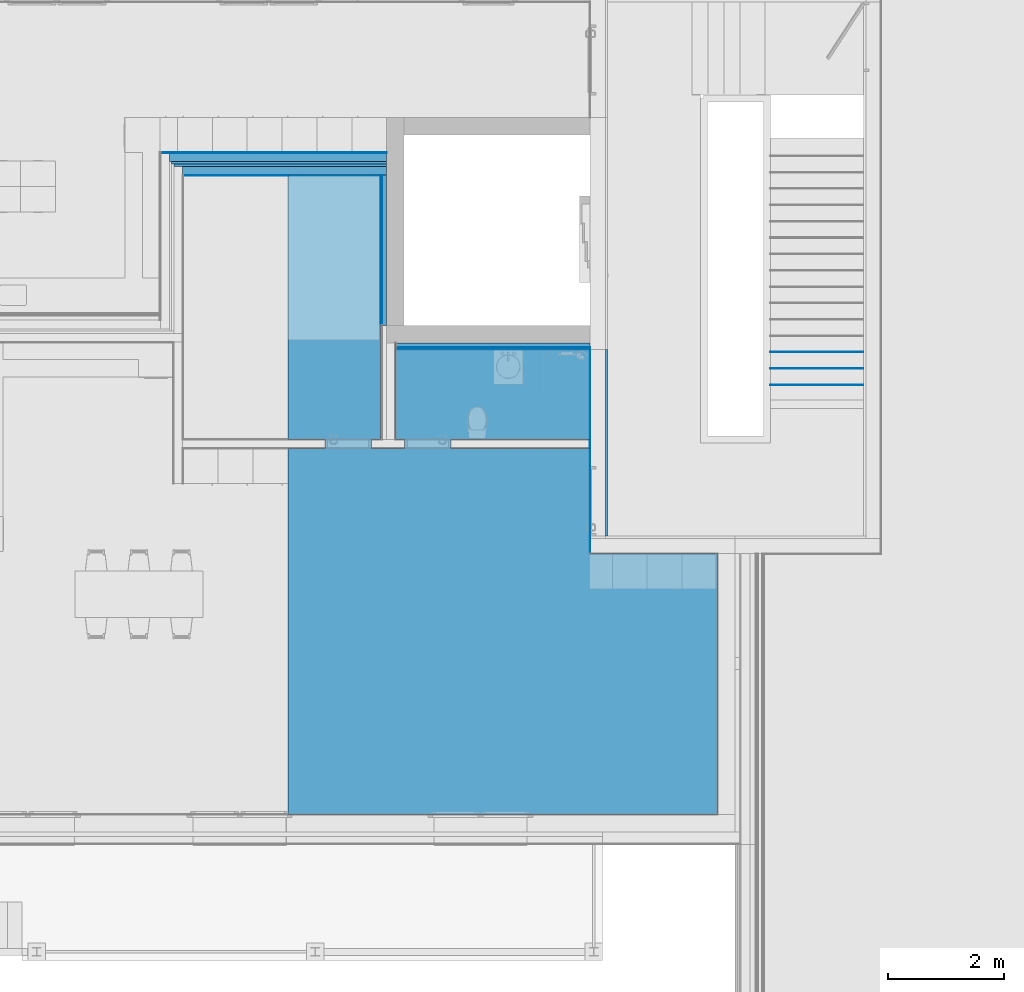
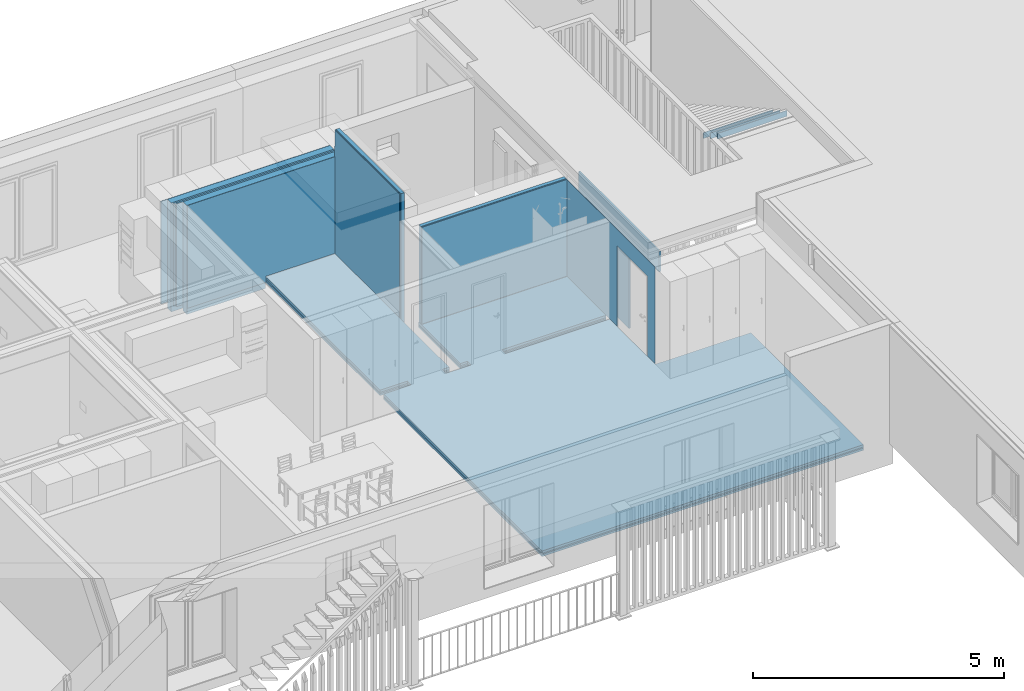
# One storey, part 12 of 34: 22 building element parts, 1 opening, 7 elements without a shape of their own.
"""IFC4 building model written with IfcOpenShell, lengths in millimetres."""

from ifc_helpers import new_model, entity, si_unit, converted_unit, derived_unit, direction, frame, origin_with_axes, place, context, subcontext, project, spatial, polygons, material, type_object, element, aggregate, save


model = new_model("IFC4")

# Units and contexts
model_context = context("Model", 3, precision=0.01, world=origin_with_axes(), true_north=direction((0.0, 1.0)))
body_context = subcontext(model_context, "Body", "Model", "MODEL_VIEW")
ifc_project = project(units=[si_unit("LENGTHUNIT", "METRE", prefix="MILLI"), si_unit("AREAUNIT", "SQUARE_METRE"), si_unit("VOLUMEUNIT", "CUBIC_METRE"), converted_unit("PLANEANGLEUNIT", "DEGREE", entity("IfcPlaneAngleMeasure", 0.0174532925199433), si_unit("PLANEANGLEUNIT", "RADIAN"), dimensions=[0, 0, 0, 0, 0, 0, 0]), converted_unit("TIMEUNIT", "Year", entity("IfcTimeMeasure", 31557600.0), si_unit("TIMEUNIT", "SECOND"), dimensions=[0, 0, 1, 0, 0, 0, 0]), si_unit("MASSUNIT", "GRAM", prefix="KILO"), si_unit("THERMODYNAMICTEMPERATUREUNIT", "DEGREE_CELSIUS"), si_unit("LUMINOUSINTENSITYUNIT", "LUMEN"), si_unit("ENERGYUNIT", "JOULE", prefix="MEGA"), derived_unit("THERMALCONDUCTANCEUNIT", [(si_unit("POWERUNIT", "WATT"), 1), (si_unit("LENGTHUNIT", "METRE"), -1), (si_unit("THERMODYNAMICTEMPERATUREUNIT", "KELVIN"), -1)]), derived_unit("SPECIFICHEATCAPACITYUNIT", [(si_unit("ENERGYUNIT", "JOULE"), 1), (si_unit("MASSUNIT", "GRAM", prefix="KILO"), -1), (si_unit("THERMODYNAMICTEMPERATUREUNIT", "KELVIN"), -1)]), derived_unit("MASSDENSITYUNIT", [(si_unit("MASSUNIT", "GRAM", prefix="KILO"), 1), (si_unit("VOLUMEUNIT", "CUBIC_METRE"), -1)])], contexts=[model_context])

# Site, building, storey
site_placement = place(None, origin_with_axes())
site = spatial("IfcSite", under=ifc_project, at=site_placement, Name="Gelände", CompositionType="ELEMENT")
building_placement = place(site_placement, origin_with_axes())
building = spatial("IfcBuilding", under=site, at=building_placement, Name="Gebäude", CompositionType="ELEMENT")
storey_placement = place(building_placement, frame((0.0, 0.0, 5799.999999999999), z_axis=(0.0, 0.0, 1.0), x_axis=(1.0, 0.0, 0.0)))
storey = spatial("IfcBuildingStorey", under=building, at=storey_placement, Name="2.OG", CompositionType="ELEMENT", Elevation=5800.0)

# Wall, opening, building element parts
wall_type_1 = type_object("IfcWallType", Name="Innenwand Typ 10 310", PredefinedType="NOTDEFINED")
wall_1_placement = place(storey_placement, frame((15728.99744477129, 31457.59728131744, 150.0000000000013), z_axis=(0.0, 0.0, 1.0), x_axis=(0.0, -1.0, 0.0)))
wall_1 = element("IfcWall", 1, at=wall_1_placement, inside=storey, type_object=wall_type_1, Name="Wand-014", PredefinedType="NOTDEFINED")
opening_placement = place(wall_1_placement, frame((2610.0, 0.0, 0.0), z_axis=(0.0, 0.0, 1.0), x_axis=(1.0, 0.0, 0.0)))
element("IfcOpeningElement", 2, at=opening_placement, cuts=wall_1, Name="Tür-011", context=body_context, identifier="Reference", shape_type="Tessellation", body=[
    polygons([(600.0000000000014, -300.0000000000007, 2100.0), (-600.0000000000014, -300.0000000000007, 2100.0), (-600.0000000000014, -310.9999999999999, 2100.0), (600.0000000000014, -310.9999999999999, 2100.0), (600.0000000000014, 1.000000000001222, 2100.0), (-600.0000000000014, 1.000000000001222, 2100.0), (-600.0000000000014, -300.0000000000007, -150.0000000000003), (-600.0000000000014, -310.9999999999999, -149.9999999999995), (600.0000000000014, -310.9999999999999, -149.9999999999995), (600.0000000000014, -300.0000000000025, -150.0000000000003), (600.0000000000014, 0.9999999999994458, -150.0000000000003), (-600.0000000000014, 1.000000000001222, -150.0000000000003)], [[[1, 2, 3, 4]], [[2, 1, 5, 6]], [[2, 7, 8, 3]], [[3, 8, 9, 4]], [[10, 1, 4, 9]], [[1, 10, 11, 5]], [[5, 11, 12, 6]], [[7, 2, 6, 12]], [[7, 10, 9, 8]], [[10, 7, 12, 11]]], closed=True),
])
ifc_material_1 = material(Name="Sichtbeton")
building_element_part_1_placement = place(wall_1_placement, origin_with_axes())
building_element_part_1 = element("IfcBuildingElementPart", 3, at=building_element_part_1_placement, material=ifc_material_1, Name="Sichtbeton", PredefinedType="NOTDEFINED", context=body_context, shape_type="Tessellation", body=[
    polygons([(2009.999999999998, 0.0, 2100.0), (2009.999999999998, 0.0, 0.0), (0.0, 0.0, 0.0), (0.0, 0.0, 2599.999999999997), (3209.999999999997, 0.0, 2599.999999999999), (3209.999999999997, 0.0, 2499.999999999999), (3210.000000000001, 0.0, 2100.0), (2009.999999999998, -39.99999999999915, 2100.0), (2009.999999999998, -40.00000000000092, 0.0), (0.0, -39.99999999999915, 0.0), (0.0, -39.99999999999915, 2599.999999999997), (3209.999999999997, -39.99999999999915, 2599.999999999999), (3210.000000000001, -39.99999999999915, 2100.0)], [[[1, 2, 3, 4, 5, 6, 7]], [[2, 1, 8, 9]], [[2, 9, 10, 3]], [[11, 4, 3, 10]], [[11, 12, 5, 4]], [[13, 7, 6, 5, 12]], [[1, 7, 13, 8]], [[8, 13, 12, 11, 10, 9]]], closed=True),
])
ifc_material_2 = material(Name="Kalkzementputz Aussen")
building_element_part_2_placement = place(wall_1_placement, origin_with_axes())
building_element_part_2 = element("IfcBuildingElementPart", 4, at=building_element_part_2_placement, material=ifc_material_2, Name="Kalkzementputz Aussen", PredefinedType="NOTDEFINED", context=body_context, shape_type="Tessellation", body=[
    polygons([(3210.000000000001, -300.0000000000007, 149.9999999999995), (3210.000000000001, -300.0000000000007, 2100.0), (2009.999999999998, -300.0000000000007, 2100.0), (2009.999999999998, -300.0000000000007, 149.9999999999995), (0.0, -300.0000921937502, 149.9999999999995), (0.0, -300.0000000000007, 2499.999948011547), (3509.999999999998, -300.0000000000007, 2499.999999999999), (3510.000081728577, -300.0000921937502, 149.9999999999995), (3210.000000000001, -310.0000000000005, 149.9999999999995), (3210.000000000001, -310.0000000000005, 2100.0), (2009.999999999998, -310.0000000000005, 2100.0), (2009.999999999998, -310.0000000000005, 149.9999999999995), (0.0, -310.0000000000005, 149.9999999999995), (0.0, -310.0000000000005, 2499.999948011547), (3210.000000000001, -310.0000000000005, 2499.999948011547), (3509.999999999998, -310.0000000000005, 2499.999999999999), (3510.00000005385, -310.0000000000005, 149.9999999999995)], [[[1, 2, 3, 4, 5, 6, 7, 8]], [[2, 1, 9, 10]], [[3, 2, 10, 11]], [[4, 3, 11, 12]], [[4, 12, 13, 5]], [[6, 5, 13, 14]], [[15, 16, 7, 6, 14]], [[8, 7, 16, 17]], [[9, 1, 8, 17]], [[10, 9, 17, 16, 15, 14, 13, 12, 11]]], closed=True),
])
aggregate(wall_1, [building_element_part_1, building_element_part_2])

# Stair, building element parts
stair_type = type_object("IfcStairType", Name="Treppentyp", PredefinedType="NOTDEFINED")
stair_placement = place(storey_placement, frame((20128.99743772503, 35092.59728131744, 650.0000000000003), z_axis=(0.0, 0.0, 1.0), x_axis=(1.0, 0.0, 0.0)))
stair = element("IfcStair", 5, at=stair_placement, inside=storey, type_object=stair_type, Name="Treppe-001", PredefinedType="NOTDEFINED")
ifc_material_3 = material(Name="Keramik")
building_element_part_3_placement = place(stair_placement, origin_with_axes())
building_element_part_3 = element("IfcBuildingElementPart", 6, at=building_element_part_3_placement, material=ifc_material_3, Name="Keramik", PredefinedType="NOTDEFINED", context=body_context, shape_type="Tessellation", body=[
    polygons([(-1600.000000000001, -3676.250000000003, 2077.333333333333), (-1600.000000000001, -3686.250000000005, 2077.333333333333), (0.0, -3686.250000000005, 2077.333333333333), (0.0, -3676.250000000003, 2077.333333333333), (-1600.000000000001, -3676.250000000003, 1936.0), (-1600.000000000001, -3686.250000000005, 1936.0), (0.0, -3686.250000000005, 1936.0), (0.0, -3676.250000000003, 1936.0)], [[[1, 2, 3, 4]], [[1, 5, 6, 2]], [[2, 6, 7, 3]], [[4, 3, 7, 8]], [[5, 1, 4, 8]], [[6, 5, 8, 7]]], closed=True),
])
building_element_part_4_placement = place(stair_placement, origin_with_axes())
building_element_part_4 = element("IfcBuildingElementPart", 7, at=building_element_part_4_placement, material=ifc_material_3, Name="Keramik", PredefinedType="NOTDEFINED", context=body_context, shape_type="Tessellation", body=[
    polygons([(-1600.000000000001, -3957.500000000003, 2238.666666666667), (-1600.000000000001, -3967.500000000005, 2238.666666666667), (0.0, -3967.500000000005, 2238.666666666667), (0.0, -3957.500000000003, 2238.666666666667), (-1600.000000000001, -3957.500000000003, 2097.333333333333), (-1600.000000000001, -3967.500000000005, 2097.333333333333), (0.0, -3967.500000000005, 2097.333333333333), (0.0, -3957.500000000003, 2097.333333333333)], [[[1, 2, 3, 4]], [[1, 5, 6, 2]], [[2, 6, 7, 3]], [[4, 3, 7, 8]], [[5, 1, 4, 8]], [[6, 5, 8, 7]]], closed=True),
])
building_element_part_5_placement = place(stair_placement, origin_with_axes())
building_element_part_5 = element("IfcBuildingElementPart", 8, at=building_element_part_5_placement, material=ifc_material_3, Name="Keramik", PredefinedType="NOTDEFINED", context=body_context, shape_type="Tessellation", body=[
    polygons([(-1600.000000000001, -4238.750000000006, 2400.0), (-1600.000000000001, -4248.750000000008, 2400.0), (0.0, -4248.750000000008, 2400.0), (0.0, -4238.750000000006, 2400.0), (-1600.000000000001, -4238.750000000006, 2258.666666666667), (-1600.000000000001, -4248.750000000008, 2258.666666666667), (0.0, -4248.750000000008, 2258.666666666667), (0.0, -4238.750000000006, 2258.666666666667)], [[[1, 2, 3, 4]], [[1, 5, 6, 2]], [[2, 6, 7, 3]], [[4, 3, 7, 8]], [[5, 1, 4, 8]], [[6, 5, 8, 7]]], closed=True),
])
aggregate(stair, [building_element_part_3, building_element_part_4, building_element_part_5])

# Wall, building element parts
wall_type_2 = type_object("IfcWallType", Name="Trennwand Typ 03 - verputzt 200", PredefinedType="NOTDEFINED")
wall_2_placement = place(storey_placement, frame((11928.99744477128, 34837.59728131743, 0.0), z_axis=(0.0, 0.0, 1.0), x_axis=(-1.0, 0.0, 0.0)))
wall_2 = element("IfcWall", 9, at=wall_2_placement, inside=storey, type_object=wall_type_2, Name="Wand-014", PredefinedType="NOTDEFINED")
ifc_material_4 = material(Name="Dämmung Innen")
building_element_part_6_placement = place(wall_2_placement, origin_with_axes())
building_element_part_6 = element("IfcBuildingElementPart", 10, at=building_element_part_6_placement, material=ifc_material_4, Name="Dämmung Innen", PredefinedType="NOTDEFINED", context=body_context, shape_type="Tessellation", body=[
    polygons([(3700.000000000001, 189.9999999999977, 150.0000000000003), (0.0, 189.9999999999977, 150.0000000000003), (0.0, 189.9999999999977, 2649.999948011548), (3700.000000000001, 189.9999999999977, 2649.999948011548), (3700.000000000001, 149.9999999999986, 150.0000000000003), (0.0, 149.9999999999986, 150.0000000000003), (0.0, 149.9999999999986, 2649.999948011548), (3700.000000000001, 149.9999999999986, 2649.999948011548)], [[[1, 2, 3, 4]], [[5, 6, 2, 1]], [[2, 6, 7, 3]], [[8, 4, 3, 7]], [[5, 1, 4, 8]], [[5, 8, 7, 6]]], closed=True),
])
building_element_part_7_placement = place(wall_2_placement, origin_with_axes())
building_element_part_7 = element("IfcBuildingElementPart", 11, at=building_element_part_7_placement, material=ifc_material_2, Name="Kalkzementputz Aussen", PredefinedType="NOTDEFINED", context=body_context, shape_type="Tessellation", body=[
    polygons([(3890.0, 0.0, 150.0000000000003), (0.0, 0.0, 150.0000000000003), (0.0, 0.0, 2649.999948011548), (3890.0, 0.0, 2649.999948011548), (3890.0, -9.99999999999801, 150.0000000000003), (1700.000000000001, -10.00000000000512, 150.0000000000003), (0.0, -10.00000000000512, 150.0000000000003), (0.0, -9.99999999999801, 2649.999948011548), (3890.0, -9.99999999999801, 2649.999948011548)], [[[1, 2, 3, 4]], [[5, 6, 7, 2, 1]], [[2, 7, 8, 3]], [[9, 4, 3, 8]], [[5, 1, 4, 9]], [[6, 5, 9, 8, 7]]], closed=True),
])
ifc_material_5 = material(Name="MW, Backstein")
building_element_part_8_placement = place(wall_2_placement, origin_with_axes())
building_element_part_8 = element("IfcBuildingElementPart", 12, at=building_element_part_8_placement, material=ifc_material_5, Name="MW, Backstein", PredefinedType="NOTDEFINED", context=body_context, shape_type="Tessellation", body=[
    polygons([(0.0, 149.9999999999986, 150.0000000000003), (0.0, 0.0, 150.0000000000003), (0.0, 0.0, 2649.999948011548), (0.0, 149.9999999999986, 2649.999948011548), (1700.000000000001, 0.0, 150.0000000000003), (1700.000000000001, 149.9999999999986, 150.0000000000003), (1700.000000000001, 0.0, 0.0), (3740.0, 0.0, 0.0), (3740.0, 0.0, 2649.999948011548), (3740.0, 149.9999999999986, 2649.999948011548), (3740.0, 149.9999999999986, 0.0), (1700.000000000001, 149.9999999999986, 0.0)], [[[1, 2, 3, 4]], [[5, 2, 1, 6]], [[5, 7, 8, 9, 3, 2]], [[9, 10, 4, 3]], [[6, 1, 4, 10, 11, 12]], [[7, 5, 6, 12]], [[7, 12, 11, 8]], [[8, 11, 10, 9]]], closed=True),
])
aggregate(wall_2, [building_element_part_6, building_element_part_7, building_element_part_8])

wall_type_3 = type_object("IfcWallType", Name="Vorsatzschale 01 115", PredefinedType="NOTDEFINED")
wall_3_placement = place(storey_placement, frame((11813.99744477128, 34457.59728131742, 0.0), z_axis=(0.0, 0.0, 1.0), x_axis=(0.0, -1.0, 0.0)))
wall_3 = element("IfcWall", 13, at=wall_3_placement, inside=storey, type_object=wall_type_3, Name="Wand-014", PredefinedType="NOTDEFINED")
ifc_material_6 = material(Name="Ständer Konstruktion gedämmt")
building_element_part_9_placement = place(wall_3_placement, origin_with_axes())
building_element_part_9 = element("IfcBuildingElementPart", 14, at=building_element_part_9_placement, material=ifc_material_6, Name="Ständer Konstruktion gedämmt", PredefinedType="NOTDEFINED", context=body_context, shape_type="Tessellation", body=[
    polygons([(2584.99999999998, 115.0000099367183, 150.0000000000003), (0.0, 115.0000007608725, 150.0000000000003), (0.0, 115.0000015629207, 2649.999948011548), (7.450609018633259e-07, 115.0000000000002, 2900.0), (7.450609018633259e-07, 115.0000000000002, 3299.999999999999), (2584.99999999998, 115.0000000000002, 3299.999999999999), (3.315392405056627e-08, 35.00000088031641, 150.0000000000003), (2584.99999999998, 35.00001285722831, 150.0000000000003), (7.293081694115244e-07, 35.00000000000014, 3299.999999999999), (2584.99999999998, 35.00000000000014, 3299.999999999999)], [[[1, 2, 3, 4, 5, 6]], [[7, 2, 1, 8]], [[2, 7, 9, 5, 4, 3]], [[9, 10, 6, 5]], [[8, 1, 6, 10]], [[7, 8, 10, 9]]], closed=True),
])
building_element_part_10_placement = place(wall_3_placement, origin_with_axes())
building_element_part_10 = element("IfcBuildingElementPart", 15, at=building_element_part_10_placement, material=ifc_material_2, Name="Kalkzementputz Aussen", PredefinedType="NOTDEFINED", context=body_context, shape_type="Tessellation", body=[
    polygons([(2584.99999999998, 10.00000862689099, 300.0000000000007), (9.99999999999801, 10.00000060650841, 300.0000000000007), (9.99999999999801, 9.999999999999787, 2649.999948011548), (0.0, 9.999998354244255, 2649.999948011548), (7.244764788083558e-07, 9.999998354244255, 2900.0), (9.99999999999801, 9.999999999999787, 2900.0), (9.99999999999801, 9.999999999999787, 3299.999999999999), (2584.99999999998, 9.999999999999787, 3299.999999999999), (9.99999999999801, 0.0, 300.0000000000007), (2584.99999999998, 0.0, 300.0000000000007), (9.99999999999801, 0.0, 2649.999948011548), (0.0, 0.0, 2649.999948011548), (7.225153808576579e-07, 0.0, 2900.0), (9.99999999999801, 0.0, 2900.0), (9.99999999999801, 0.0, 3299.999999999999), (2584.99999999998, 0.0, 3299.999999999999), (2584.99999999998, 0.0, 2899.999948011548)], [[[1, 2, 3, 4, 5, 6, 7, 8]], [[9, 2, 1, 10]], [[2, 9, 11, 3]], [[11, 12, 4, 3]], [[5, 4, 12, 13]], [[14, 6, 5, 13]], [[14, 15, 7, 6]], [[15, 16, 8, 7]], [[10, 1, 8, 16, 17]], [[9, 10, 17, 16, 15, 14, 13, 12, 11]]], closed=True),
])
ifc_material_7 = material(Name="Gipskartonplatte GKP")
building_element_part_11_placement = place(wall_3_placement, origin_with_axes())
building_element_part_11 = element("IfcBuildingElementPart", 16, at=building_element_part_11_placement, material=ifc_material_7, Name="Gipskartonplatte GKP", PredefinedType="NOTDEFINED", context=body_context, shape_type="Tessellation", body=[
    polygons([(2584.99999999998, 22.49999999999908, 150.0000000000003), (3.304023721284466e-08, 22.50000000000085, 150.0000000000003), (7.268496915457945e-07, 22.50000000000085, 3299.999999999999), (2584.99999999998, 22.49999999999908, 3299.999999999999), (3.292655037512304e-08, 10.00000062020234, 150.0000000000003), (2584.99999999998, 10.00000905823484, 150.0000000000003), (7.243912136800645e-07, 9.999999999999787, 3299.999999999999), (2584.99999999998, 9.999999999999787, 3299.999999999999)], [[[1, 2, 3, 4]], [[5, 2, 1, 6]], [[2, 5, 7, 3]], [[7, 8, 4, 3]], [[6, 1, 4, 8]], [[5, 6, 8, 7]]], closed=True),
])

wall_4_placement = place(storey_placement, frame((8418.997444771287, 34457.59728131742, 0.0), z_axis=(0.0, 0.0, 1.0), x_axis=(1.0, 0.0, 0.0)))
wall_4 = element("IfcWall", 17, at=wall_4_placement, inside=storey, type_object=wall_type_2, Name="Wand-017", PredefinedType="NOTDEFINED")
building_element_part_12_placement = place(wall_4_placement, origin_with_axes())
building_element_part_12 = element("IfcBuildingElementPart", 18, at=building_element_part_12_placement, material=ifc_material_4, Name="Dämmung Innen", PredefinedType="NOTDEFINED", context=body_context, shape_type="Tessellation", body=[
    polygons([(3509.999999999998, 149.9999999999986, 150.0000000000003), (-150.0000000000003, 149.9999999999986, 150.0000000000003), (-150.0000000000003, 189.9999999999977, 150.0000000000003), (3509.999999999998, 189.9999999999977, 150.0000000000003), (3509.999999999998, 149.9999999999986, 2649.999948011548), (-150.0000000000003, 149.9999999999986, 2649.999948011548), (-150.0000000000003, 189.9999999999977, 2649.999948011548), (3509.999999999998, 189.9999999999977, 2649.999948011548)], [[[1, 2, 3, 4]], [[2, 1, 5, 6]], [[3, 2, 6, 7]], [[3, 7, 8, 4]], [[1, 4, 8, 5]], [[5, 8, 7, 6]]], closed=True),
])
building_element_part_13_placement = place(wall_4_placement, origin_with_axes())
building_element_part_13 = element("IfcBuildingElementPart", 19, at=building_element_part_13_placement, material=ifc_material_5, Name="MW, Backstein", PredefinedType="NOTDEFINED", context=body_context, shape_type="Tessellation", body=[
    polygons([(3509.999999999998, 0.0, 150.0000000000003), (3509.999999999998, 149.9999999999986, 150.0000000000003), (3509.999999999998, 149.9999999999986, 2649.999948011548), (3509.999999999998, 0.0, 2649.999948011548), (1809.999999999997, 149.9999999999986, 150.0000000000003), (1809.999999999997, 0.0, 150.0000000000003), (1809.999999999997, 149.9999999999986, 0.0), (0.0, 149.9999999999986, 0.0), (0.0, 149.9999999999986, 2649.999948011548), (0.0, 0.0, 2649.999948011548), (0.0, 0.0, 0.0), (1809.999999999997, 0.0, 0.0)], [[[1, 2, 3, 4]], [[5, 2, 1, 6]], [[5, 7, 8, 9, 3, 2]], [[4, 3, 9, 10]], [[6, 1, 4, 10, 11, 12]], [[7, 5, 6, 12]], [[7, 12, 11, 8]], [[9, 8, 11, 10]]], closed=True),
])
building_element_part_14_placement = place(wall_4_placement, origin_with_axes())
building_element_part_14 = element("IfcBuildingElementPart", 20, at=building_element_part_14_placement, material=ifc_material_2, Name="Kalkzementputz Aussen", PredefinedType="NOTDEFINED", context=body_context, shape_type="Tessellation", body=[
    polygons([(1809.999999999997, -9.99999999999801, 300.0000000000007), (1809.999999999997, -9.99999999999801, 150.0000000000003), (1809.999999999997, -7.856677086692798e-05, 150.0000000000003), (1809.999999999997, -7.856677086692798e-05, 300.0000000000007), (3404.999999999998, -9.99999999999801, 300.0000000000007), (3404.999999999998, -9.99999999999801, 2649.999948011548), (9.999999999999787, -9.99999999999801, 2649.999948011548), (9.999999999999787, -9.99999999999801, 150.0000000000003), (9.999999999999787, 0.0, 150.0000000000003), (9.999999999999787, 0.0, 2649.999948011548), (3404.999999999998, 0.0, 2649.999948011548), (3404.999999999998, -7.856677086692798e-05, 300.0000000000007)], [[[1, 2, 3, 4]], [[2, 1, 5, 6, 7, 8]], [[3, 2, 8, 9]], [[3, 9, 10, 11, 12, 4]], [[4, 12, 5, 1]], [[5, 12, 11, 6]], [[6, 11, 10, 7]], [[9, 8, 7, 10]]], closed=True),
])
aggregate(wall_4, [building_element_part_12, building_element_part_13, building_element_part_14])

wall_5_placement = place(storey_placement, frame((12088.99744477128, 31457.59728131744, 0.0), z_axis=(0.0, 0.0, 1.0), x_axis=(1.0, 0.0, 0.0)))
wall_5 = element("IfcWall", 21, at=wall_5_placement, inside=storey, type_object=wall_type_3, Name="Wand-014", PredefinedType="NOTDEFINED")
building_element_part_15_placement = place(wall_5_placement, origin_with_axes())
building_element_part_15 = element("IfcBuildingElementPart", 22, at=building_element_part_15_placement, material=ifc_material_6, Name="Ständer Konstruktion gedämmt", PredefinedType="NOTDEFINED", context=body_context, shape_type="Tessellation", body=[
    polygons([(3340.000000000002, 35.00000000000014, 150.0000000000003), (3340.000000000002, 115.000000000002, 150.0000000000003), (3340.0, 115.000000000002, 2649.999948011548), (3340.0, 35.00000000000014, 2649.999948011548), (0.0, 114.9999999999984, 150.0000000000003), (0.0, 35.00000000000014, 150.0000000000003), (0.0, 114.9999999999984, 2649.999948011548), (0.0, 35.00000000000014, 2649.999948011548)], [[[1, 2, 3, 4]], [[5, 2, 1, 6]], [[2, 5, 7, 3]], [[8, 4, 3, 7]], [[6, 1, 4, 8]], [[5, 6, 8, 7]]], closed=True),
])
building_element_part_16_placement = place(wall_5_placement, origin_with_axes())
building_element_part_16 = element("IfcBuildingElementPart", 23, at=building_element_part_16_placement, material=ifc_material_7, Name="Gipskartonplatte GKP", PredefinedType="NOTDEFINED", context=body_context, shape_type="Tessellation", body=[
    polygons([(3340.000000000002, 22.50000000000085, 150.0000000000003), (3340.000000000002, 35.00000000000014, 150.0000000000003), (3340.0, 35.00000000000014, 2649.999948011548), (3340.0, 22.50000000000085, 2649.999948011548), (0.0, 35.00000000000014, 150.0000000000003), (0.0, 22.50000000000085, 150.0000000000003), (0.0, 35.00000000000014, 2649.999948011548), (0.0, 22.50000000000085, 2649.999948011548)], [[[1, 2, 3, 4]], [[5, 2, 1, 6]], [[2, 5, 7, 3]], [[8, 4, 3, 7]], [[6, 1, 4, 8]], [[5, 6, 8, 7]]], closed=True),
])
building_element_part_17_placement = place(wall_5_placement, origin_with_axes())
building_element_part_17 = element("IfcBuildingElementPart", 24, at=building_element_part_17_placement, material=ifc_material_7, Name="Gipskartonplatte GKP", PredefinedType="NOTDEFINED", context=body_context, shape_type="Tessellation", body=[
    polygons([(3340.000000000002, 10.00000000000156, 150.0000000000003), (3340.000000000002, 22.50000000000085, 150.0000000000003), (3340.0, 22.50000000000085, 2649.999948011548), (3340.0, 10.00000000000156, 2649.999948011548), (0.0, 22.50000000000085, 150.0000000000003), (0.0, 10.00000000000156, 150.0000000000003), (0.0, 22.50000000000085, 2649.999948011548), (0.0, 10.00000000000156, 2649.999948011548)], [[[1, 2, 3, 4]], [[5, 2, 1, 6]], [[2, 5, 7, 3]], [[8, 4, 3, 7]], [[6, 1, 4, 8]], [[5, 6, 8, 7]]], closed=True),
])
building_element_part_18_placement = place(wall_5_placement, origin_with_axes())
building_element_part_18 = element("IfcBuildingElementPart", 25, at=building_element_part_18_placement, material=ifc_material_2, Name="Kalkzementputz Aussen", PredefinedType="NOTDEFINED", context=body_context, shape_type="Tessellation", body=[
    polygons([(3339.99990780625, 0.0, 300.0000000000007), (3339.99990780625, 10.00000000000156, 300.0000000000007), (3340.0, 10.00000000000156, 2649.999948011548), (3340.0, 0.0, 2649.999948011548), (0.0, 10.00000000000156, 300.0000000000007), (0.0, 0.0, 300.0000000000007), (0.0, 10.00000000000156, 2649.999948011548), (0.0, 0.0, 2649.999948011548)], [[[1, 2, 3, 4]], [[5, 2, 1, 6]], [[2, 5, 7, 3]], [[8, 4, 3, 7]], [[6, 1, 4, 8]], [[5, 6, 8, 7]]], closed=True),
])
aggregate(wall_5, [building_element_part_15, building_element_part_16, building_element_part_17, building_element_part_18])

# Building element part
building_element_part_19_placement = place(wall_3_placement, origin_with_axes())
building_element_part_19 = element("IfcBuildingElementPart", 26, at=building_element_part_19_placement, material=ifc_material_7, Name="Gipskartonplatte GKP", PredefinedType="NOTDEFINED", context=body_context, shape_type="Tessellation", body=[
    polygons([(2584.99999999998, 35.00001285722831, 150.0000000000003), (3.315392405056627e-08, 35.00000088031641, 150.0000000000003), (7.293081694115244e-07, 35.00000000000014, 3299.999999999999), (2584.99999999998, 35.00000000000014, 3299.999999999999), (3.304023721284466e-08, 22.50000000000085, 150.0000000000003), (2584.99999999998, 22.49999999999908, 150.0000000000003), (7.268496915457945e-07, 22.50000000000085, 3299.999999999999), (2584.99999999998, 22.49999999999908, 3299.999999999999)], [[[1, 2, 3, 4]], [[5, 2, 1, 6]], [[2, 5, 7, 3]], [[7, 8, 4, 3]], [[6, 1, 4, 8]], [[5, 6, 8, 7]]], closed=True),
])

aggregate(wall_3, [building_element_part_9, building_element_part_10, building_element_part_11, building_element_part_19])

# Covering, building element parts
covering_type = type_object("IfcCoveringType", Name="Bodenaufbau Typ 01 150", PredefinedType="NOTDEFINED")
covering_placement = place(storey_placement, frame((10228.99744477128, 23457.59674077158, 150.0000000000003), z_axis=(0.0, 0.0, 1.0), x_axis=(1.0, 0.0, 0.0)))
covering = element("IfcCovering", 27, at=covering_placement, inside=storey, type_object=covering_type, Name="Decke-007", PredefinedType="NOTDEFINED")
ifc_material_8 = material(Name="Unterlagsboden")
building_element_part_20_placement = place(covering_placement, origin_with_axes())
building_element_part_20 = element("IfcBuildingElementPart", 28, at=building_element_part_20_placement, material=ifc_material_8, Name="Unterlagsboden", PredefinedType="NOTDEFINED", context=body_context, shape_type="Tessellation", body=[
    polygons([(1595.000000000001, 6450.000540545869, 135.0000000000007), (1595.000000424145, 11000.00054054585, 135.0000000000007), (0.0, 11000.00046197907, 135.0000000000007), (0.0, 6450.000540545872, 135.0000000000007), (635.0000000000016, 6450.000540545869, 135.0000000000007), (635.0000000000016, 6300.000540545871, 135.0000000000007), (0.0, 6300.000540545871, 135.0000000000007), (0.0, 0.0, 135.0000000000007), (7390.999935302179, 0.0, 135.0000000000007), (7390.999935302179, 4490.000458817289, 135.0000000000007), (5199.999907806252, 4490.000458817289, 135.0000000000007), (5200.000000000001, 6300.000540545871, 135.0000000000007), (2810.000000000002, 6300.000540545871, 135.0000000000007), (2810.000000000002, 6450.000540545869, 135.0000000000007), (5200.000000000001, 6450.000540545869, 135.0000000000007), (5200.000000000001, 8010.000540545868, 135.0000000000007), (1860.000000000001, 8010.000540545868, 135.0000000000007), (1860.000000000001, 8115.000540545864, 135.0000000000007), (1850.000000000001, 8115.000466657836, 135.0000000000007), (1850.000000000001, 6450.000540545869, 134.9999999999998), (2010.000000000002, 6450.000540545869, 135.0000000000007), (2010.000000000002, 6300.000540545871, 135.0000000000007), (1435.000000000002, 6300.000540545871, 135.0000000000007), (1435.000000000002, 6450.000540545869, 135.0000000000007), (1595.000000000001, 6450.000540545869, 80.00000000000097), (1595.00000046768, 11000.00054054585, 80.00000000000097), (0.0, 11000.00046197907, 80.00000000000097), (0.0, 6450.000540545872, 80.00000000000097), (635.0000000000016, 6450.000540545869, 80.00000000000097), (635.0000000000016, 6300.000540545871, 80.00000000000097), (0.0, 6300.000540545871, 80.00000000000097), (0.0, 0.0, 80.00000000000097), (7390.999935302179, 0.0, 80.00000000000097), (7390.999935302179, 4490.000458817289, 80.00000000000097), (5199.999907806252, 4490.000458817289, 80.00000000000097), (5200.000000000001, 6300.000540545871, 80.00000000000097), (2810.000000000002, 6300.000540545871, 80.00000000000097), (2810.000000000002, 6450.000540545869, 80.00000000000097), (5200.000000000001, 6450.000540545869, 80.00000000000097), (5200.000000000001, 8010.000540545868, 80.00000000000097), (1860.000000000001, 8010.000540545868, 80.00000000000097), (1860.000000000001, 8115.000540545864, 80.00000000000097), (1850.000000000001, 8115.000466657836, 80.00000000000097), (1850.000000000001, 6450.000540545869, 80.00000000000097), (2010.000000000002, 6450.000540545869, 80.00000000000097), (2010.000000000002, 6300.000540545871, 80.00000000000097), (1435.000000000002, 6300.000540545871, 80.00000000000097), (1435.000000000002, 6450.000540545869, 80.00000000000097)], [[[1, 2, 3, 4, 5, 6, 7, 8, 9, 10, 11, 12, 13, 14, 15, 16, 17, 18, 19, 20, 21, 22, 23, 24]], [[2, 1, 25, 26]], [[2, 26, 27, 3]], [[28, 4, 3, 27]], [[5, 4, 28, 29]], [[6, 5, 29, 30]], [[7, 6, 30, 31]], [[7, 31, 32, 8]], [[32, 33, 9, 8]], [[33, 34, 10, 9]], [[34, 35, 11, 10]], [[36, 12, 11, 35]], [[13, 12, 36, 37]], [[14, 13, 37, 38]], [[39, 15, 14, 38]], [[40, 16, 15, 39]], [[17, 16, 40, 41]], [[17, 41, 42, 18]], [[18, 42, 43, 19]], [[20, 19, 43, 44]], [[20, 44, 45, 21]], [[22, 21, 45, 46]], [[23, 22, 46, 47]], [[24, 23, 47, 48]], [[25, 1, 24, 48]], [[25, 48, 47, 46, 45, 44, 43, 42, 41, 40, 39, 38, 37, 36, 35, 34, 33, 32, 31, 30, 29, 28, 27, 26]]], closed=True),
])
ifc_material_9 = material(Name="Trittschalldämmung")
building_element_part_21_placement = place(covering_placement, origin_with_axes())
building_element_part_21 = element("IfcBuildingElementPart", 29, at=building_element_part_21_placement, material=ifc_material_9, Name="Trittschalldämmung", PredefinedType="NOTDEFINED", context=body_context, shape_type="Tessellation", body=[
    polygons([(1595.000000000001, 6450.000540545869, 80.00000000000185), (1595.000000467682, 11000.00054054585, 80.00000000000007), (0.0, 11000.00046197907, 80.00000000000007), (0.0, 6450.000540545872, 80.00000000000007), (635.0000000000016, 6450.000540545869, 80.00000000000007), (635.0000000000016, 6300.000540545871, 80.00000000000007), (0.0, 6300.000540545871, 80.00000000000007), (0.0, 0.0, 80.00000000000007), (7390.999935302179, 0.0, 80.00000000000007), (7390.999935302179, 4490.000458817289, 80.00000000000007), (5199.999907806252, 4490.000458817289, 80.00000000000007), (5200.000000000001, 6300.000540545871, 80.00000000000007), (2810.000000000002, 6300.000540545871, 80.00000000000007), (2810.000000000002, 6450.000540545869, 80.00000000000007), (5200.000000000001, 6450.000540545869, 80.00000000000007), (5200.000000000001, 8010.000540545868, 80.00000000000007), (1860.000000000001, 8010.000540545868, 80.00000000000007), (1860.000000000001, 8115.000540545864, 80.00000000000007), (1850.000000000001, 8115.000466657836, 80.00000000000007), (1850.000000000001, 6450.000540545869, 80.00000000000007), (2010.000000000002, 6450.000540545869, 80.00000000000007), (2010.000000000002, 6300.000540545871, 80.00000000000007), (1435.000000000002, 6300.000540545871, 80.00000000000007), (1435.000000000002, 6450.000540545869, 80.00000000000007), (1595.000000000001, 6450.000540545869, 49.99999999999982), (1595.000000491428, 11000.00054054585, 49.99999999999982), (0.0, 11000.00046197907, 49.99999999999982), (0.0, 6450.000540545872, 49.99999999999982), (635.0000000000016, 6450.000540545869, 49.99999999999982), (635.0000000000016, 6300.000540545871, 49.99999999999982), (0.0, 6300.000540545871, 49.99999999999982), (0.0, 0.0, 49.99999999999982), (7390.999935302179, 0.0, 49.99999999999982), (7390.999935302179, 4490.000458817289, 49.99999999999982), (5199.999907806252, 4490.000458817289, 49.99999999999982), (5200.000000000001, 6300.000540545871, 49.99999999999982), (2810.000000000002, 6300.000540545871, 49.99999999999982), (2810.000000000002, 6450.000540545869, 49.99999999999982), (5200.000000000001, 6450.000540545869, 49.99999999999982), (5200.000000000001, 8010.000540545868, 49.99999999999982), (1860.000000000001, 8010.000540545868, 49.99999999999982), (1860.000000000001, 8115.000540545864, 49.99999999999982), (1850.000000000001, 8115.000466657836, 49.99999999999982), (1850.000000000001, 6450.000540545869, 49.99999999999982), (2010.000000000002, 6450.000540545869, 49.99999999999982), (2010.000000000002, 6300.000540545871, 49.99999999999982), (1435.000000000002, 6300.000540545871, 49.99999999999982), (1435.000000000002, 6450.000540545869, 49.99999999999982)], [[[1, 2, 3, 4, 5, 6, 7, 8, 9, 10, 11, 12, 13, 14, 15, 16, 17, 18, 19, 20, 21, 22, 23, 24]], [[2, 1, 25, 26]], [[2, 26, 27, 3]], [[28, 4, 3, 27]], [[5, 4, 28, 29]], [[6, 5, 29, 30]], [[7, 6, 30, 31]], [[7, 31, 32, 8]], [[32, 33, 9, 8]], [[33, 34, 10, 9]], [[34, 35, 11, 10]], [[36, 12, 11, 35]], [[13, 12, 36, 37]], [[14, 13, 37, 38]], [[39, 15, 14, 38]], [[40, 16, 15, 39]], [[17, 16, 40, 41]], [[17, 41, 42, 18]], [[18, 42, 43, 19]], [[20, 19, 43, 44]], [[20, 44, 45, 21]], [[22, 21, 45, 46]], [[23, 22, 46, 47]], [[24, 23, 47, 48]], [[25, 1, 24, 48]], [[25, 48, 47, 46, 45, 44, 43, 42, 41, 40, 39, 38, 37, 36, 35, 34, 33, 32, 31, 30, 29, 28, 27, 26]]], closed=True),
])
building_element_part_22_placement = place(covering_placement, origin_with_axes())
building_element_part_22 = element("IfcBuildingElementPart", 30, at=building_element_part_22_placement, material=ifc_material_4, Name="Dämmung Innen", PredefinedType="NOTDEFINED", context=body_context, shape_type="Tessellation", body=[
    polygons([(1595.000000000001, 6450.000540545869, 50.00000000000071), (1595.000000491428, 11000.00054054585, 50.00000000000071), (0.0, 11000.00046197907, 50.00000000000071), (0.0, 6450.000540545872, 50.00000000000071), (635.0000000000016, 6450.000540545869, 50.00000000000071), (635.0000000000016, 6300.000540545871, 50.00000000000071), (0.0, 6300.000540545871, 50.00000000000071), (0.0, 0.0, 50.00000000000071), (7390.999935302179, 0.0, 50.00000000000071), (7390.999935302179, 4490.000458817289, 50.00000000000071), (5199.999907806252, 4490.000458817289, 50.00000000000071), (5200.000000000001, 6300.000540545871, 50.00000000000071), (2810.000000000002, 6300.000540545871, 50.00000000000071), (2810.000000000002, 6450.000540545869, 50.00000000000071), (5200.000000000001, 6450.000540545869, 50.00000000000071), (5200.000000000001, 8010.000540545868, 50.00000000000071), (1860.000000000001, 8010.000540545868, 50.00000000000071), (1860.000000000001, 8115.000540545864, 50.00000000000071), (1850.000000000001, 8115.000466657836, 50.00000000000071), (1850.000000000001, 6450.000540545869, 50.00000000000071), (2010.000000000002, 6450.000540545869, 50.00000000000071), (2010.000000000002, 6300.000540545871, 50.00000000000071), (1435.000000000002, 6300.000540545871, 50.00000000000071), (1435.000000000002, 6450.000540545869, 50.00000000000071), (1595.000000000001, 6450.000540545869, 0.0), (1595.000000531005, 11000.00054054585, 0.0), (0.0, 11000.00046197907, 0.0), (0.0, 6450.000540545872, 0.0), (635.0000000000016, 6450.000540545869, 0.0), (635.0000000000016, 6300.000540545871, 0.0), (0.0, 6300.000540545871, 0.0), (0.0, 0.0, 0.0), (7390.999935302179, 0.0, 0.0), (7390.999935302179, 4490.000458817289, 0.0), (5199.999907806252, 4490.000458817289, 0.0), (5200.000000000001, 6300.000540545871, 0.0), (2810.000000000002, 6300.000540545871, 0.0), (2810.000000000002, 6450.000540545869, 0.0), (5200.000000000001, 6450.000540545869, 0.0), (5200.000000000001, 8010.000540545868, 0.0), (1860.000000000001, 8010.000540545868, 0.0), (1860.000000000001, 8115.000540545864, 0.0), (1850.000000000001, 8115.000466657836, 0.0), (1850.000000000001, 6450.000540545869, 0.0), (2010.000000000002, 6450.000540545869, 0.0), (2010.000000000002, 6300.000540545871, 0.0), (1435.000000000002, 6300.000540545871, 0.0), (1435.000000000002, 6450.000540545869, 0.0)], [[[1, 2, 3, 4, 5, 6, 7, 8, 9, 10, 11, 12, 13, 14, 15, 16, 17, 18, 19, 20, 21, 22, 23, 24]], [[2, 1, 25, 26]], [[2, 26, 27, 3]], [[28, 4, 3, 27]], [[5, 4, 28, 29]], [[6, 5, 29, 30]], [[7, 6, 30, 31]], [[7, 31, 32, 8]], [[8, 32, 33, 9]], [[9, 33, 34, 10]], [[10, 34, 35, 11]], [[36, 12, 11, 35]], [[13, 12, 36, 37]], [[14, 13, 37, 38]], [[39, 15, 14, 38]], [[40, 16, 15, 39]], [[17, 16, 40, 41]], [[17, 41, 42, 18]], [[18, 42, 43, 19]], [[20, 19, 43, 44]], [[20, 44, 45, 21]], [[22, 21, 45, 46]], [[23, 22, 46, 47]], [[24, 23, 47, 48]], [[25, 1, 24, 48]], [[25, 48, 47, 46, 45, 44, 43, 42, 41, 40, 39, 38, 37, 36, 35, 34, 33, 32, 31, 30, 29, 28, 27, 26]]], closed=True),
])
aggregate(covering, [building_element_part_20, building_element_part_21, building_element_part_22])

save(model, "model.ifc")
